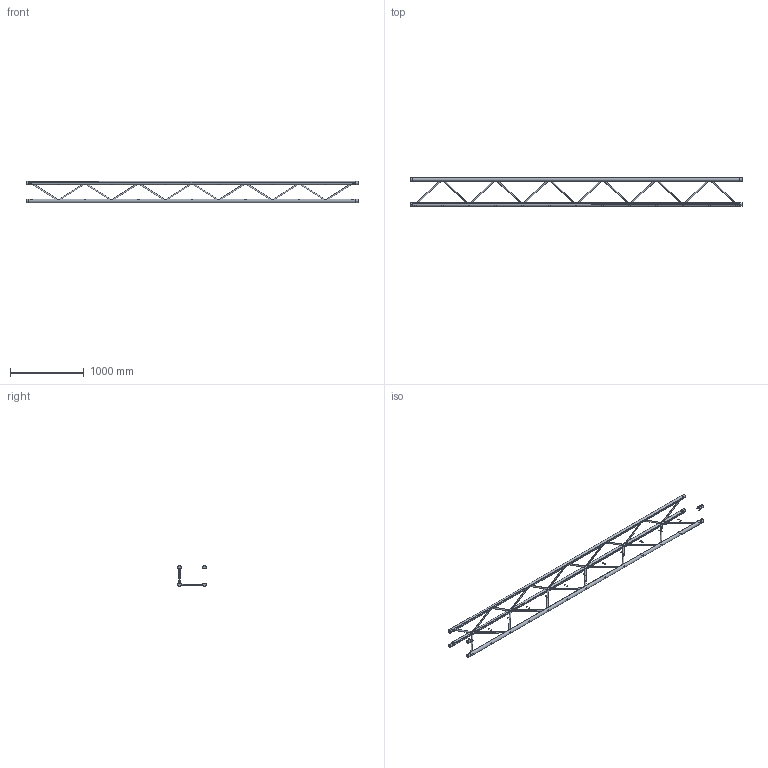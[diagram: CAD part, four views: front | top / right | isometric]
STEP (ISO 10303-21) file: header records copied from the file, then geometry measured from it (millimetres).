
FILE_DESCRIPTION(/* description */ (''),/* implementation_level */ '2;1');
FILE_NAME(/* name */ 'C:\Users\adrian.toca\Desktop\111050921.stp',/* time_stamp */ '2016-09-19T11:17:27+03:00',/* author */ ('adrian.toca'),/* organization */ (''),/* preprocessor_version */ 'ST-DEVELOPER v15.6',/* originating_system */ 'Autodesk Inventor 2015',/* authorisation */ '');
FILE_SCHEMA (('AUTOMOTIVE_DESIGN { 1 0 10303 214 3 1 1 }'));
Length unit declared in the file: millimetre
Products named in the file (1): 260030919
Bounding box: 4500 x 387.3 x 287.3 mm (x, y, z)
Volume: 13869278.3 mm3; surface area: 4714.5 mm2
Topology: 1 solids, 1 shells, 197 faces, 372 edges, 292 vertices
Faces by surface type: plane 112, cylinder 77, cone 8
Full cylindrical faces by diameter (mm): 10 x8, 20 x30, 48.3 x22
Entity records: 8720 total; most frequent: CARTESIAN_POINT 4076, DIRECTION 870, ORIENTED_EDGE 772, EDGE_LOOP 406, AXIS2_PLACEMENT_3D 398, EDGE_CURVE 372, VERTEX_POINT 292, FACE_BOUND 209
